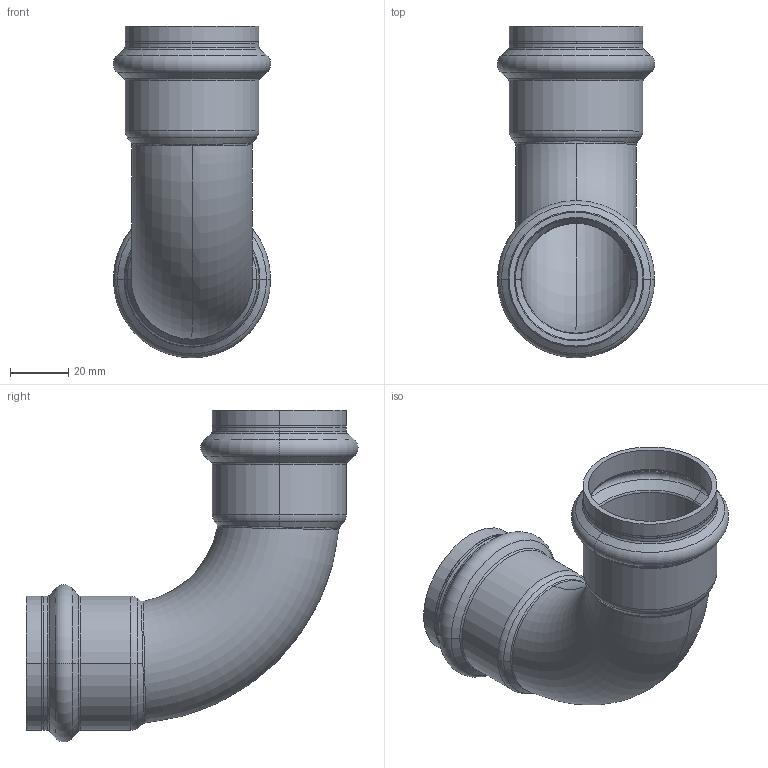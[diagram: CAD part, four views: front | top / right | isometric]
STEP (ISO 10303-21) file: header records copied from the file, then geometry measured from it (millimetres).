
FILE_DESCRIPTION (( 'STEP AP203' ), '1' );
FILE_NAME ('SP5002 Ø42.STEP', '2017-04-24T08:05:50', ( '' ), ( '' ), 'SwSTEP 2.0', 'SolidWorks 2016', '' );
FILE_SCHEMA (( 'CONFIG_CONTROL_DESIGN' ));
Length unit declared in the file: millimetre
Products named in the file (1): SP5002 ﾘ42
Bounding box: 54.06 x 114.03 x 114.03 mm (x, y, z)
Volume: 40314.1 mm3; surface area: 43375.8 mm2
Topology: 1 solids, 1 shells, 98 faces, 228 edges, 136 vertices
Faces by surface type: torus 36, cone 24, cylinder 24, bspline 8, plane 6
Entity records: 5032 total; most frequent: CARTESIAN_POINT 2694, DIRECTION 526, ORIENTED_EDGE 456, AXIS2_PLACEMENT_3D 239, EDGE_CURVE 228, CIRCLE 148, VERTEX_POINT 136, EDGE_LOOP 104
